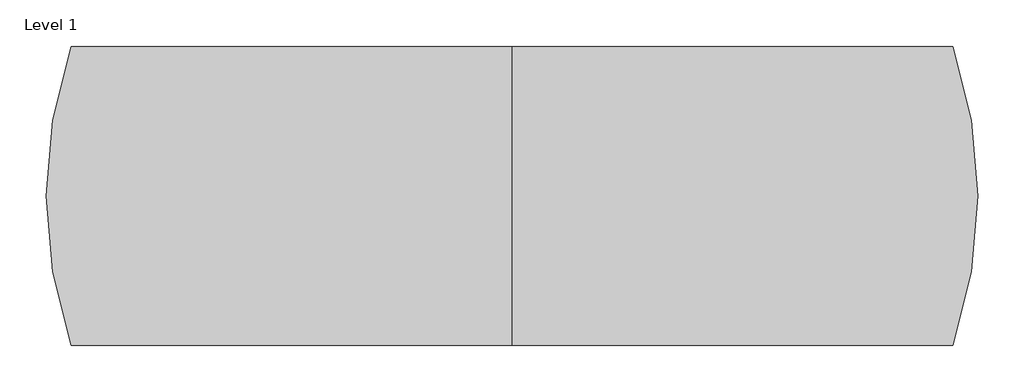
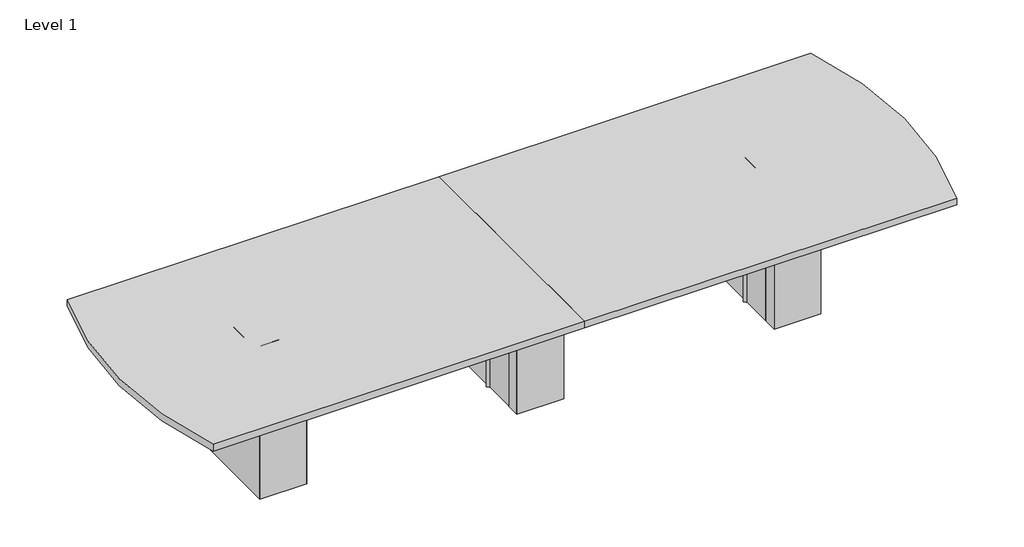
# One storey: 12 proxies.
"""IFC4 building model written with IfcOpenShell, lengths in millimetres."""

from ifc_helpers import new_model, si_unit, origin, place, context, project, spatial, transform, mapped, element, save
from components import generic_models_18996e01, generic_models_4fbf6d71, generic_models_e0952b48, generic_models_f14fef5b, generic_models_7f1c6e52, generic_models_b144283c

model = new_model("IFC4")

# Units and contexts
model_context = context("Model", 3, world=origin())
ifc_project = project(units=[si_unit("LENGTHUNIT", "METRE", prefix="MILLI")], contexts=[model_context])

# Site, building, storey
site = spatial("IfcSite", under=ifc_project)
building = spatial("IfcBuilding", under=site)
storey = spatial("IfcBuildingStorey", under=building, Name="Level 1", Elevation=0.0)

# Proxies
placement = place(None, origin())
generic_models_shape = generic_models_18996e01(model_context)
element("IfcBuildingElementProxy", 1, Name="FOUNDATION^TABLE 6_10X21 PAINTED END BASE-ASSEMBLY", ObjectType="FOUNDATION^TABLE 6_10X21 PAINTED END BASE-ASSEMBLY", at=placement, inside=storey, context=model_context, shape_type="MappedRepresentation", body=[
    mapped(generic_models_shape, transform((-1270.0, -952.5, -704.85), x_axis=(0.0, 1.0, 0.0), y_axis=(0.0, 0.0, 1.0), z_axis=(1.0, 0.0, 0.0))),
])
element("IfcBuildingElementProxy", 2, Name="FOUNDATION^TABLE 6_10X21 PAINTED END BASE-ASSEMBLY", ObjectType="FOUNDATION^TABLE 6_10X21 PAINTED END BASE-ASSEMBLY", at=placement, inside=storey, context=model_context, shape_type="MappedRepresentation", body=[
    mapped(generic_models_shape, transform((1270.0, -419.1, -704.85), x_axis=(0.0, -1.0, 0.0), y_axis=(0.0, 0.0, 1.0), z_axis=(-1.0, 0.0, 0.0))),
])
generic_models_2_shape = generic_models_4fbf6d71(model_context)
element("IfcBuildingElementProxy", 3, Name="ECA INTERACT+ UT", ObjectType="ECA INTERACT+ UT", at=placement, inside=storey, context=model_context, shape_type="MappedRepresentation", body=[
    mapped(generic_models_2_shape, transform((1313.2946461, -664.5596051, -115.671219), x_axis=(0.0, 1.0, 0.0), y_axis=(0.0, 0.0, 1.0), z_axis=(1.0, 0.0, 0.0))),
])
element("IfcBuildingElementProxy", 4, Name="ECA INTERACT+ UT", ObjectType="ECA INTERACT+ UT", at=placement, inside=storey, context=model_context, shape_type="MappedRepresentation", body=[
    mapped(generic_models_2_shape, transform((-1313.2946461, -707.0403949, -115.671219), x_axis=(0.0, -1.0, 0.0), y_axis=(0.0, 0.0, 1.0), z_axis=(-1.0, 0.0, 0.0))),
])
generic_models_3_shape = generic_models_e0952b48(model_context)
element("IfcBuildingElementProxy", 5, Name="FOUNDATION^TABLE 6_RADIUS ENDS-KEEL", ObjectType="FOUNDATION^TABLE 6_RADIUS ENDS-KEEL", at=placement, inside=storey, context=model_context, shape_type="MappedRepresentation", body=[
    mapped(generic_models_3_shape, transform((1828.8, -476.25, -88.9), x_axis=(-1.0, 0.0, 0.0), y_axis=(0.0, 0.0, 1.0), z_axis=(0.0, 1.0, 0.0))),
])
element("IfcBuildingElementProxy", 6, Name="FOUNDATION^TABLE 6_RADIUS ENDS-KEEL", ObjectType="FOUNDATION^TABLE 6_RADIUS ENDS-KEEL", at=placement, inside=storey, context=model_context, shape_type="MappedRepresentation", body=[
    mapped(generic_models_3_shape, transform((1828.8, -927.1, -88.9), x_axis=(-1.0, 0.0, 0.0), y_axis=(0.0, 0.0, 1.0), z_axis=(0.0, 1.0, 0.0))),
])
element("IfcBuildingElementProxy", 7, Name="FOUNDATION^TABLE 6_RADIUS ENDS-KEEL", ObjectType="FOUNDATION^TABLE 6_RADIUS ENDS-KEEL", at=placement, inside=storey, context=model_context, shape_type="MappedRepresentation", body=[
    mapped(generic_models_3_shape, transform((-1828.8, -444.5, -88.9), x_axis=(1.0, 0.0, 0.0), y_axis=(0.0, 0.0, 1.0), z_axis=(0.0, -1.0, 0.0))),
])
element("IfcBuildingElementProxy", 8, Name="FOUNDATION^TABLE 6_RADIUS ENDS-KEEL", ObjectType="FOUNDATION^TABLE 6_RADIUS ENDS-KEEL", at=placement, inside=storey, context=model_context, shape_type="MappedRepresentation", body=[
    mapped(generic_models_3_shape, transform((-1828.8, -895.35, -88.9), x_axis=(1.0, 0.0, 0.0), y_axis=(0.0, 0.0, 1.0), z_axis=(0.0, -1.0, 0.0))),
])
generic_models_4_shape = generic_models_f14fef5b(model_context)
element("IfcBuildingElementProxy", 9, Name="FOUNDATION^TABLE 6_RADIUS ENDS-POWER LID", ObjectType="FOUNDATION^TABLE 6_RADIUS ENDS-POWER LID", at=placement, inside=storey, context=model_context, shape_type="MappedRepresentation", body=[
    mapped(generic_models_4_shape, transform((-1456.3441511, -784.225, 19.05), x_axis=(1.0, 0.0, 0.0), y_axis=(0.0, 0.0, 1.0), z_axis=(0.0, -1.0, 0.0))),
])
element("IfcBuildingElementProxy", 10, Name="FOUNDATION^TABLE 6_RADIUS ENDS-POWER LID", ObjectType="FOUNDATION^TABLE 6_RADIUS ENDS-POWER LID", at=placement, inside=storey, context=model_context, shape_type="MappedRepresentation", body=[
    mapped(generic_models_4_shape, transform((1456.3441511, -587.375, 19.05), x_axis=(-1.0, 0.0, 0.0), y_axis=(0.0, 0.0, 1.0), z_axis=(0.0, 1.0, 0.0))),
])
generic_models_5_shape = generic_models_7f1c6e52(model_context)
element("IfcBuildingElementProxy", 11, Name="CCN^STANDARD_10X21 PAINTED CENTER BASE-ASSEMBLY", ObjectType="CCN^STANDARD_10X21 PAINTED CENTER BASE-ASSEMBLY", at=placement, inside=storey, context=model_context, shape_type="MappedRepresentation", body=[
    mapped(generic_models_5_shape, transform((-127.0, -419.1, -704.85), x_axis=(0.0, -1.0, 0.0), y_axis=(0.0, 0.0, 1.0), z_axis=(-1.0, 0.0, 0.0))),
])
generic_models_6_shape = generic_models_b144283c(model_context)
element("IfcBuildingElementProxy", 12, Name="FOUNDATION^TABLE 6_RADIUS ENDS-TOPS SOLID", ObjectType="FOUNDATION^TABLE 6_RADIUS ENDS-TOPS SOLID", at=placement, inside=storey, context=model_context, shape_type="MappedRepresentation", body=[
    mapped(generic_models_6_shape, transform((-2133.6, -1371.6, 0.0), x_axis=(1.0, 0.0, 0.0), y_axis=(0.0, 0.0, 1.0), z_axis=(0.0, -1.0, 0.0))),
])

save(model, "model.ifc")
